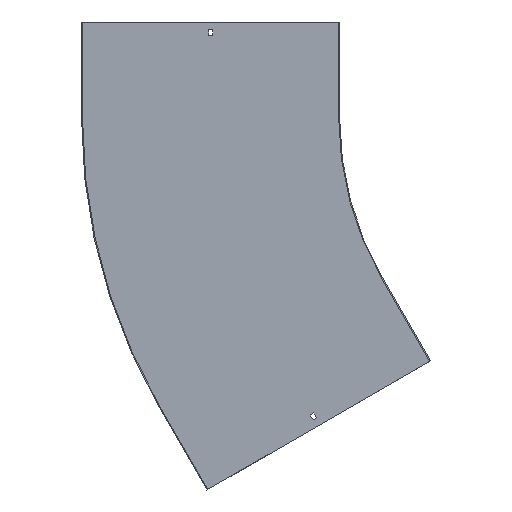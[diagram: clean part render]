
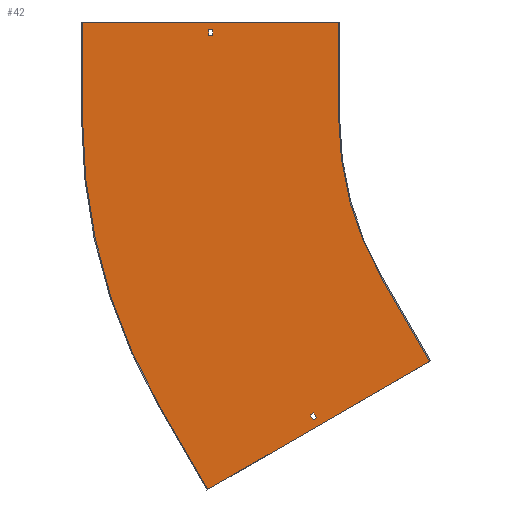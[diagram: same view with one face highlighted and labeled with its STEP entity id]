
A CAD part, front view. The second image highlights one B-rep face of the part: STEP entity #42.
In plain terms, the highlighted planar face has unit normal (0, -1, 0).
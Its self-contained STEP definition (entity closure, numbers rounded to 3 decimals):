
#6 = ORIENTED_EDGE ( 'NONE', *, *, #708, .F. ) ;
#16 = DIRECTION ( 'NONE',  ( 0., 1., 0. ) ) ;
#25 = LINE ( 'NONE', #634, #759 ) ;
#26 = VERTEX_POINT ( 'NONE', #392 ) ;
#31 = ORIENTED_EDGE ( 'NONE', *, *, #154, .F. ) ;
#32 = ORIENTED_EDGE ( 'NONE', *, *, #496, .T. ) ;
#38 = CARTESIAN_POINT ( 'NONE',  ( 64.5, -1.5, -111.717 ) ) ;
#39 = VECTOR ( 'NONE', #638, 1000. ) ;
#40 = ORIENTED_EDGE ( 'NONE', *, *, #66, .F. ) ;
#42 = ADVANCED_FACE ( 'NONE', ( #575, #250, #773 ), #777, .T. ) ;
#49 = DIRECTION ( 'NONE',  ( 1., 0., 0. ) ) ;
#56 = VERTEX_POINT ( 'NONE', #720 ) ;
#60 = DIRECTION ( 'NONE',  ( 0., -1., 0. ) ) ;
#66 = EDGE_CURVE ( 'NONE', #613, #778, #327, .T. ) ;
#71 = EDGE_CURVE ( 'NONE', #854, #681, #441, .T. ) ;
#72 = DIRECTION ( 'NONE',  ( 0., 0., -1. ) ) ;
#95 = VECTOR ( 'NONE', #232, 1000. ) ;
#110 = DIRECTION ( 'NONE',  ( 0., 0., 1. ) ) ;
#116 = CARTESIAN_POINT ( 'NONE',  ( -544.532, -1.5, -463.342 ) ) ;
#117 = CARTESIAN_POINT ( 'NONE',  ( 0., -1.5, 0. ) ) ;
#118 = CARTESIAN_POINT ( 'NONE',  ( -704.423, -1.5, -579.904 ) ) ;
#127 = CARTESIAN_POINT ( 'NONE',  ( -433.013, -1.5, -250. ) ) ;
#128 = EDGE_CURVE ( 'NONE', #410, #613, #675, .T. ) ;
#129 = CARTESIAN_POINT ( 'NONE',  ( -433.013, -1.5, -250. ) ) ;
#149 = VECTOR ( 'NONE', #850, 1000. ) ;
#154 = EDGE_CURVE ( 'NONE', #752, #532, #195, .T. ) ;
#164 = CARTESIAN_POINT ( 'NONE',  ( 0., -1.5, 0. ) ) ;
#165 = EDGE_CURVE ( 'NONE', #26, #425, #25, .T. ) ;
#166 = ORIENTED_EDGE ( 'NONE', *, *, #204, .T. ) ;
#174 = CARTESIAN_POINT ( 'NONE',  ( -603.403, -1.5, -348.375 ) ) ;
#187 = DIRECTION ( 'NONE',  ( -0.5, 0., 0.866 ) ) ;
#195 = LINE ( 'NONE', #127, #748 ) ;
#202 = CIRCLE ( 'NONE', #535, 500. ) ;
#204 = EDGE_CURVE ( 'NONE', #681, #792, #687, .T. ) ;
#224 = ORIENTED_EDGE ( 'NONE', *, *, #300, .F. ) ;
#232 = DIRECTION ( 'NONE',  ( -1., 0., 0. ) ) ;
#233 = EDGE_LOOP ( 'NONE', ( #452, #40, #677, #299, #402, #31, #224, #754 ) ) ;
#245 = LINE ( 'NONE', #514, #149 ) ;
#250 = FACE_OUTER_BOUND ( 'NONE', #233, .T. ) ;
#273 = EDGE_CURVE ( 'NONE', #570, #26, #484, .T. ) ;
#277 = EDGE_CURVE ( 'NONE', #532, #406, #245, .T. ) ;
#278 = VECTOR ( 'NONE', #503, 1000. ) ;
#281 = DIRECTION ( 'NONE',  ( 0., 0., -1. ) ) ;
#285 = CARTESIAN_POINT ( 'NONE',  ( -609.032, -1.5, -351.625 ) ) ;
#289 = VECTOR ( 'NONE', #187, 1000. ) ;
#299 = ORIENTED_EDGE ( 'NONE', *, *, #552, .F. ) ;
#300 = EDGE_CURVE ( 'NONE', #539, #752, #202, .T. ) ;
#305 = AXIS2_PLACEMENT_3D ( 'NONE', #607, #16, #72 ) ;
#315 = DIRECTION ( 'NONE',  ( 0., 0., -1. ) ) ;
#323 = EDGE_CURVE ( 'NONE', #778, #56, #438, .T. ) ;
#327 = LINE ( 'NONE', #862, #816 ) ;
#329 = CARTESIAN_POINT ( 'NONE',  ( -900., -1.5, 150. ) ) ;
#345 = CARTESIAN_POINT ( 'NONE',  ( 0., -1.5, 129. ) ) ;
#358 = DIRECTION ( 'NONE',  ( 0.866, 0., 0.5 ) ) ;
#364 = LINE ( 'NONE', #767, #597 ) ;
#367 = DIRECTION ( 'NONE',  ( 0., 0., -1. ) ) ;
#371 = CARTESIAN_POINT ( 'NONE',  ( -703.25, -1.5, 129. ) ) ;
#377 = CARTESIAN_POINT ( 'NONE',  ( 0., -1.5, 138. ) ) ;
#383 = CARTESIAN_POINT ( 'NONE',  ( -696.75, -1.5, 129. ) ) ;
#385 = DIRECTION ( 'NONE',  ( 0., 0., -1. ) ) ;
#390 = CARTESIAN_POINT ( 'NONE',  ( -358.013, -1.5, -379.904 ) ) ;
#392 = CARTESIAN_POINT ( 'NONE',  ( -540.032, -1.5, -471.137 ) ) ;
#395 = LINE ( 'NONE', #433, #682 ) ;
#402 = ORIENTED_EDGE ( 'NONE', *, *, #277, .F. ) ;
#406 = VERTEX_POINT ( 'NONE', #733 ) ;
#410 = VERTEX_POINT ( 'NONE', #665 ) ;
#425 = VERTEX_POINT ( 'NONE', #781 ) ;
#431 = DIRECTION ( 'NONE',  ( -0.866, 0., -0.5 ) ) ;
#433 = CARTESIAN_POINT ( 'NONE',  ( -500., -1.5, 150. ) ) ;
#438 = LINE ( 'NONE', #646, #829 ) ;
#441 = LINE ( 'NONE', #699, #460 ) ;
#452 = ORIENTED_EDGE ( 'NONE', *, *, #323, .F. ) ;
#459 = EDGE_CURVE ( 'NONE', #684, #570, #825, .T. ) ;
#460 = VECTOR ( 'NONE', #110, 1000. ) ;
#471 = ORIENTED_EDGE ( 'NONE', *, *, #165, .F. ) ;
#478 = EDGE_CURVE ( 'NONE', #550, #854, #832, .T. ) ;
#484 = LINE ( 'NONE', #285, #771 ) ;
#496 = EDGE_CURVE ( 'NONE', #792, #550, #364, .T. ) ;
#503 = DIRECTION ( 'NONE',  ( -0.5, 0., 0.866 ) ) ;
#508 = CARTESIAN_POINT ( 'NONE',  ( -900., -1.5, 0. ) ) ;
#512 = LINE ( 'NONE', #118, #289 ) ;
#514 = CARTESIAN_POINT ( 'NONE',  ( -356.714, -1.5, -379.154 ) ) ;
#518 = VECTOR ( 'NONE', #431, 1000. ) ;
#532 = VERTEX_POINT ( 'NONE', #390 ) ;
#535 = AXIS2_PLACEMENT_3D ( 'NONE', #164, #842, #385 ) ;
#539 = VERTEX_POINT ( 'NONE', #846 ) ;
#547 = DIRECTION ( 'NONE',  ( 0.5, 0., -0.866 ) ) ;
#550 = VERTEX_POINT ( 'NONE', #383 ) ;
#552 = EDGE_CURVE ( 'NONE', #406, #410, #512, .T. ) ;
#570 = VERTEX_POINT ( 'NONE', #116 ) ;
#575 = FACE_BOUND ( 'NONE', #789, .T. ) ;
#583 = AXIS2_PLACEMENT_3D ( 'NONE', #117, #60, #315 ) ;
#597 = VECTOR ( 'NONE', #281, 1000. ) ;
#603 = ORIENTED_EDGE ( 'NONE', *, *, #71, .T. ) ;
#607 = CARTESIAN_POINT ( 'NONE',  ( 0., -1.5, 0. ) ) ;
#613 = VERTEX_POINT ( 'NONE', #508 ) ;
#628 = ORIENTED_EDGE ( 'NONE', *, *, #273, .F. ) ;
#634 = CARTESIAN_POINT ( 'NONE',  ( 69., -1.5, -119.512 ) ) ;
#638 = DIRECTION ( 'NONE',  ( 1., 0., 0. ) ) ;
#646 = CARTESIAN_POINT ( 'NONE',  ( -901.5, -1.5, 150. ) ) ;
#650 = CARTESIAN_POINT ( 'NONE',  ( -696.75, -1.5, 138. ) ) ;
#665 = CARTESIAN_POINT ( 'NONE',  ( -779.423, -1.5, -450. ) ) ;
#675 = CIRCLE ( 'NONE', #305, 900. ) ;
#677 = ORIENTED_EDGE ( 'NONE', *, *, #128, .F. ) ;
#681 = VERTEX_POINT ( 'NONE', #782 ) ;
#682 = VECTOR ( 'NONE', #367, 1000. ) ;
#684 = VERTEX_POINT ( 'NONE', #838 ) ;
#687 = LINE ( 'NONE', #377, #39 ) ;
#693 = DIRECTION ( 'NONE',  ( 0.5, 0., -0.866 ) ) ;
#699 = CARTESIAN_POINT ( 'NONE',  ( -703.25, -1.5, 0. ) ) ;
#707 = ORIENTED_EDGE ( 'NONE', *, *, #478, .T. ) ;
#708 = EDGE_CURVE ( 'NONE', #425, #684, #844, .T. ) ;
#720 = CARTESIAN_POINT ( 'NONE',  ( -500., -1.5, 150. ) ) ;
#733 = CARTESIAN_POINT ( 'NONE',  ( -704.423, -1.5, -579.904 ) ) ;
#738 = ORIENTED_EDGE ( 'NONE', *, *, #459, .F. ) ;
#748 = VECTOR ( 'NONE', #693, 1000. ) ;
#752 = VERTEX_POINT ( 'NONE', #129 ) ;
#754 = ORIENTED_EDGE ( 'NONE', *, *, #821, .F. ) ;
#759 = VECTOR ( 'NONE', #358, 1000. ) ;
#767 = CARTESIAN_POINT ( 'NONE',  ( -696.75, -1.5, 0. ) ) ;
#771 = VECTOR ( 'NONE', #547, 1000. ) ;
#773 = FACE_BOUND ( 'NONE', #797, .T. ) ;
#777 = PLANE ( 'NONE',  #583 ) ;
#778 = VERTEX_POINT ( 'NONE', #329 ) ;
#781 = CARTESIAN_POINT ( 'NONE',  ( -534.403, -1.5, -467.887 ) ) ;
#782 = CARTESIAN_POINT ( 'NONE',  ( -703.25, -1.5, 138. ) ) ;
#789 = EDGE_LOOP ( 'NONE', ( #6, #471, #628, #738 ) ) ;
#791 = DIRECTION ( 'NONE',  ( 0., 0., 1. ) ) ;
#792 = VERTEX_POINT ( 'NONE', #650 ) ;
#797 = EDGE_LOOP ( 'NONE', ( #166, #32, #707, #603 ) ) ;
#816 = VECTOR ( 'NONE', #791, 1000. ) ;
#821 = EDGE_CURVE ( 'NONE', #56, #539, #395, .T. ) ;
#825 = LINE ( 'NONE', #38, #518 ) ;
#829 = VECTOR ( 'NONE', #49, 1000. ) ;
#832 = LINE ( 'NONE', #345, #95 ) ;
#838 = CARTESIAN_POINT ( 'NONE',  ( -538.903, -1.5, -460.092 ) ) ;
#842 = DIRECTION ( 'NONE',  ( 0., -1., 0. ) ) ;
#844 = LINE ( 'NONE', #174, #278 ) ;
#846 = CARTESIAN_POINT ( 'NONE',  ( -500., -1.5, 0. ) ) ;
#850 = DIRECTION ( 'NONE',  ( -0.866, 0., -0.5 ) ) ;
#854 = VERTEX_POINT ( 'NONE', #371 ) ;
#862 = CARTESIAN_POINT ( 'NONE',  ( -900., -1.5, 0. ) ) ;
